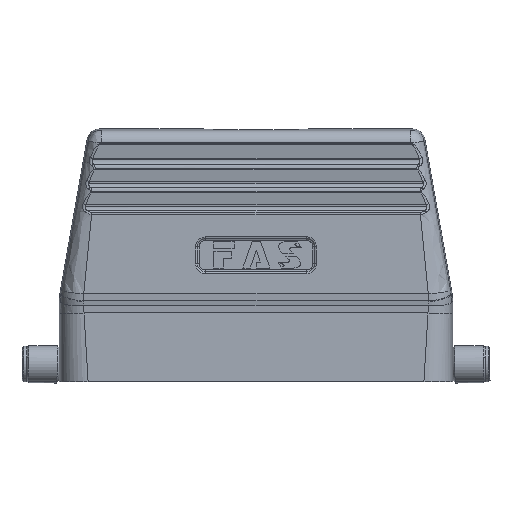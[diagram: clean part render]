
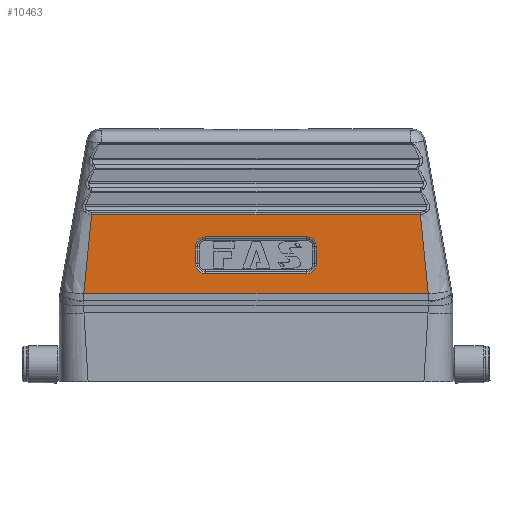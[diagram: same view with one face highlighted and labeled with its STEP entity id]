
A CAD part, front view. The second image highlights one B-rep face of the part: STEP entity #10463.
In plain terms, the highlighted planar face has unit normal (0, -1, 0).
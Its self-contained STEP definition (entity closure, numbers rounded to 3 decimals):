
#227 = CARTESIAN_POINT ( 'NONE',  ( -14.366, -22., 0. ) ) ;
#555 = CARTESIAN_POINT ( 'NONE',  ( -14.366, -22., 33.386 ) ) ;
#664 = EDGE_CURVE ( 'NONE', #2794, #5231, #6278, .T. ) ;
#1127 = DIRECTION ( 'NONE',  ( -1., 0., 0. ) ) ;
#1251 = ORIENTED_EDGE ( 'NONE', *, *, #23447, .F. ) ;
#1586 = CARTESIAN_POINT ( 'NONE',  ( 14.366, -22., 32. ) ) ;
#1625 = CARTESIAN_POINT ( 'NONE',  ( -12., -22., 25.634 ) ) ;
#1837 = EDGE_CURVE ( 'NONE', #15091, #14242, #21112, .T. ) ;
#2222 = CARTESIAN_POINT ( 'NONE',  ( -40.922, -22., 20.875 ) ) ;
#2381 = LINE ( 'NONE', #11110, #10073 ) ;
#2684 = CARTESIAN_POINT ( 'NONE',  ( -14.366, -22., 28. ) ) ;
#2794 = VERTEX_POINT ( 'NONE', #16010 ) ;
#3314 = CARTESIAN_POINT ( 'NONE',  ( -14.366, -22., 26.614 ) ) ;
#3401 = VERTEX_POINT ( 'NONE', #19885 ) ;
#3753 = VECTOR ( 'NONE', #12495, 1000. ) ;
#4082 = VERTEX_POINT ( 'NONE', #6487 ) ;
#4378 = CARTESIAN_POINT ( 'NONE',  ( -13.25, -22., 25.634 ) ) ;
#4408 = VECTOR ( 'NONE', #6007, 1000. ) ;
#4461 = CARTESIAN_POINT ( 'NONE',  ( -39.846, -22., 33.477 ) ) ;
#4548 = CARTESIAN_POINT ( 'NONE',  ( -40.759, -22., 24.029 ) ) ;
#4784 = DIRECTION ( 'NONE',  ( 0., 1., 0. ) ) ;
#4976 = ORIENTED_EDGE ( 'NONE', *, *, #10427, .F. ) ;
#5231 = VERTEX_POINT ( 'NONE', #17929 ) ;
#5313 = EDGE_CURVE ( 'NONE', #7859, #6863, #24357, .T. ) ;
#5984 = VECTOR ( 'NONE', #19923, 1000. ) ;
#6007 = DIRECTION ( 'NONE',  ( 1., 0., 0. ) ) ;
#6091 = EDGE_CURVE ( 'NONE', #6863, #9057, #2381, .T. ) ;
#6233 = CARTESIAN_POINT ( 'NONE',  ( -39.042, -22., 39.758 ) ) ;
#6278 =( BOUNDED_CURVE ( )  B_SPLINE_CURVE ( 3, ( #10965, #22354, #11043, #12791 ),
 .UNSPECIFIED., .F., .T. ) 
 B_SPLINE_CURVE_WITH_KNOTS ( ( 4, 4 ),
 ( 0., 1. ),
 .UNSPECIFIED. ) 
 CURVE ( )  GEOMETRIC_REPRESENTATION_ITEM ( )  RATIONAL_B_SPLINE_CURVE ( ( 1., 0.805, 0.805, 1. ) ) 
 REPRESENTATION_ITEM ( '' )  );
#6487 = CARTESIAN_POINT ( 'NONE',  ( 40.922, -22., 20.875 ) ) ;
#6511 = CARTESIAN_POINT ( 'NONE',  ( -253.848, -22., 20.875 ) ) ;
#6837 = EDGE_LOOP ( 'NONE', ( #1251, #20646, #15287, #22315, #20647, #4976, #13669, #18347 ) ) ;
#6840 = CARTESIAN_POINT ( 'NONE',  ( -13.25, -22., 0. ) ) ;
#6863 = VERTEX_POINT ( 'NONE', #18335 ) ;
#6905 = CARTESIAN_POINT ( 'NONE',  ( 40.498, -22., 27.182 ) ) ;
#7859 = VERTEX_POINT ( 'NONE', #1586 ) ;
#7949 =( BOUNDED_CURVE ( )  B_SPLINE_CURVE ( 3, ( #13537, #21430, #555, #8043 ),
 .UNSPECIFIED., .F., .F. ) 
 B_SPLINE_CURVE_WITH_KNOTS ( ( 4, 4 ),
 ( 0., 1. ),
 .UNSPECIFIED. ) 
 CURVE ( )  GEOMETRIC_REPRESENTATION_ITEM ( )  RATIONAL_B_SPLINE_CURVE ( ( 1., 0.805, 0.805, 1. ) ) 
 REPRESENTATION_ITEM ( '' )  );
#8036 = CARTESIAN_POINT ( 'NONE',  ( -39.457, -22., 36.619 ) ) ;
#8043 = CARTESIAN_POINT ( 'NONE',  ( -14.366, -22., 32. ) ) ;
#8194 = FACE_BOUND ( 'NONE', #6837, .T. ) ;
#8400 = CARTESIAN_POINT ( 'NONE',  ( 39.458, -22., 36.619 ) ) ;
#8725 = CARTESIAN_POINT ( 'NONE',  ( -40.922, -22., 20.875 ) ) ;
#8825 = ORIENTED_EDGE ( 'NONE', *, *, #24104, .F. ) ;
#8898 = B_SPLINE_CURVE_WITH_KNOTS ( 'NONE', 3,
 ( #19710, #8400, #10656, #6905, #14390, #14643 ),
 .UNSPECIFIED., .F., .F.,
 ( 4, 2, 4 ),
 ( 0., 0.5, 1. ),
 .UNSPECIFIED. ) ;
#9037 =( BOUNDED_CURVE ( )  B_SPLINE_CURVE ( 3, ( #24094, #3314, #18996, #1625 ),
 .UNSPECIFIED., .F., .F. ) 
 B_SPLINE_CURVE_WITH_KNOTS ( ( 4, 4 ),
 ( 0., 1. ),
 .UNSPECIFIED. ) 
 CURVE ( )  GEOMETRIC_REPRESENTATION_ITEM ( )  RATIONAL_B_SPLINE_CURVE ( ( 1., 0.805, 0.805, 1. ) ) 
 REPRESENTATION_ITEM ( '' )  );
#9057 = VERTEX_POINT ( 'NONE', #15533 ) ;
#9187 = CARTESIAN_POINT ( 'NONE',  ( -14.366, -22., 32. ) ) ;
#9571 = ORIENTED_EDGE ( 'NONE', *, *, #16187, .F. ) ;
#9620 = CARTESIAN_POINT ( 'NONE',  ( -12., -22., 25.634 ) ) ;
#9981 = FACE_OUTER_BOUND ( 'NONE', #19859, .T. ) ;
#10073 = VECTOR ( 'NONE', #22180, 1000. ) ;
#10192 = VECTOR ( 'NONE', #23166, 1000. ) ;
#10202 = ORIENTED_EDGE ( 'NONE', *, *, #21158, .F. ) ;
#10427 = EDGE_CURVE ( 'NONE', #5231, #7859, #22121, .T. ) ;
#10463 = ADVANCED_FACE ( 'NONE', ( #8194, #9981 ), #18187, .F. ) ;
#10656 = CARTESIAN_POINT ( 'NONE',  ( 39.847, -22., 33.477 ) ) ;
#10816 = AXIS2_PLACEMENT_3D ( 'NONE', #6840, #4784, #12414 ) ;
#10852 = VERTEX_POINT ( 'NONE', #6233 ) ;
#10965 = CARTESIAN_POINT ( 'NONE',  ( 12., -22., 25.634 ) ) ;
#11011 = CARTESIAN_POINT ( 'NONE',  ( 14.366, -22., 33.386 ) ) ;
#11043 = CARTESIAN_POINT ( 'NONE',  ( 14.366, -22., 26.614 ) ) ;
#11088 = CARTESIAN_POINT ( 'NONE',  ( 13.386, -22., 34.366 ) ) ;
#11110 = CARTESIAN_POINT ( 'NONE',  ( -13.25, -22., 34.366 ) ) ;
#12414 = DIRECTION ( 'NONE',  ( 0., 0., 1. ) ) ;
#12495 = DIRECTION ( 'NONE',  ( 0., 0., 1. ) ) ;
#12791 = CARTESIAN_POINT ( 'NONE',  ( 14.366, -22., 28. ) ) ;
#12914 = EDGE_CURVE ( 'NONE', #10852, #3401, #17456, .T. ) ;
#13233 = CARTESIAN_POINT ( 'NONE',  ( 14.366, -22., 32. ) ) ;
#13537 = CARTESIAN_POINT ( 'NONE',  ( -12., -22., 34.366 ) ) ;
#13669 = ORIENTED_EDGE ( 'NONE', *, *, #664, .F. ) ;
#13934 = CARTESIAN_POINT ( 'NONE',  ( -40.498, -22., 27.183 ) ) ;
#14242 = VERTEX_POINT ( 'NONE', #2684 ) ;
#14390 = CARTESIAN_POINT ( 'NONE',  ( 40.76, -22., 24.029 ) ) ;
#14643 = CARTESIAN_POINT ( 'NONE',  ( 40.922, -22., 20.875 ) ) ;
#15091 = VERTEX_POINT ( 'NONE', #9187 ) ;
#15287 = ORIENTED_EDGE ( 'NONE', *, *, #22694, .F. ) ;
#15402 = VERTEX_POINT ( 'NONE', #9620 ) ;
#15462 = CARTESIAN_POINT ( 'NONE',  ( -13.25, -22., 39.758 ) ) ;
#15533 = CARTESIAN_POINT ( 'NONE',  ( -12., -22., 34.366 ) ) ;
#16010 = CARTESIAN_POINT ( 'NONE',  ( 12., -22., 25.634 ) ) ;
#16127 = CARTESIAN_POINT ( 'NONE',  ( 14.366, -22., 0. ) ) ;
#16187 = EDGE_CURVE ( 'NONE', #3401, #4082, #8898, .T. ) ;
#17221 = LINE ( 'NONE', #6511, #21056 ) ;
#17456 = LINE ( 'NONE', #15462, #4408 ) ;
#17708 = CARTESIAN_POINT ( 'NONE',  ( -39.042, -22., 39.758 ) ) ;
#17929 = CARTESIAN_POINT ( 'NONE',  ( 14.366, -22., 28. ) ) ;
#18187 = PLANE ( 'NONE',  #10816 ) ;
#18335 = CARTESIAN_POINT ( 'NONE',  ( 12., -22., 34.366 ) ) ;
#18347 = ORIENTED_EDGE ( 'NONE', *, *, #20423, .F. ) ;
#18444 = LINE ( 'NONE', #4378, #5984 ) ;
#18678 = ORIENTED_EDGE ( 'NONE', *, *, #12914, .F. ) ;
#18996 = CARTESIAN_POINT ( 'NONE',  ( -13.386, -22., 25.634 ) ) ;
#19368 = B_SPLINE_CURVE_WITH_KNOTS ( 'NONE', 3,
 ( #2222, #4548, #13934, #4461, #8036, #17708 ),
 .UNSPECIFIED., .F., .F.,
 ( 4, 2, 4 ),
 ( 0., 0.5, 1. ),
 .UNSPECIFIED. ) ;
#19710 = CARTESIAN_POINT ( 'NONE',  ( 39.042, -22., 39.758 ) ) ;
#19859 = EDGE_LOOP ( 'NONE', ( #10202, #9571, #18678, #8825 ) ) ;
#19885 = CARTESIAN_POINT ( 'NONE',  ( 39.042, -22., 39.758 ) ) ;
#19923 = DIRECTION ( 'NONE',  ( 1., 0., 0. ) ) ;
#20423 = EDGE_CURVE ( 'NONE', #15402, #2794, #18444, .T. ) ;
#20646 = ORIENTED_EDGE ( 'NONE', *, *, #1837, .F. ) ;
#20647 = ORIENTED_EDGE ( 'NONE', *, *, #5313, .F. ) ;
#21056 = VECTOR ( 'NONE', #1127, 1000. ) ;
#21112 = LINE ( 'NONE', #227, #10192 ) ;
#21158 = EDGE_CURVE ( 'NONE', #4082, #22367, #17221, .T. ) ;
#21430 = CARTESIAN_POINT ( 'NONE',  ( -13.386, -22., 34.366 ) ) ;
#22121 = LINE ( 'NONE', #16127, #3753 ) ;
#22180 = DIRECTION ( 'NONE',  ( -1., 0., 0. ) ) ;
#22315 = ORIENTED_EDGE ( 'NONE', *, *, #6091, .F. ) ;
#22354 = CARTESIAN_POINT ( 'NONE',  ( 13.386, -22., 25.634 ) ) ;
#22367 = VERTEX_POINT ( 'NONE', #8725 ) ;
#22694 = EDGE_CURVE ( 'NONE', #9057, #15091, #7949, .T. ) ;
#23166 = DIRECTION ( 'NONE',  ( 0., 0., -1. ) ) ;
#23447 = EDGE_CURVE ( 'NONE', #14242, #15402, #9037, .T. ) ;
#24094 = CARTESIAN_POINT ( 'NONE',  ( -14.366, -22., 28. ) ) ;
#24104 = EDGE_CURVE ( 'NONE', #22367, #10852, #19368, .T. ) ;
#24308 = CARTESIAN_POINT ( 'NONE',  ( 12., -22., 34.366 ) ) ;
#24357 =( BOUNDED_CURVE ( )  B_SPLINE_CURVE ( 3, ( #13233, #11011, #11088, #24308 ),
 .UNSPECIFIED., .F., .F. ) 
 B_SPLINE_CURVE_WITH_KNOTS ( ( 4, 4 ),
 ( 0., 1. ),
 .UNSPECIFIED. ) 
 CURVE ( )  GEOMETRIC_REPRESENTATION_ITEM ( )  RATIONAL_B_SPLINE_CURVE ( ( 1., 0.805, 0.805, 1. ) ) 
 REPRESENTATION_ITEM ( '' )  );
